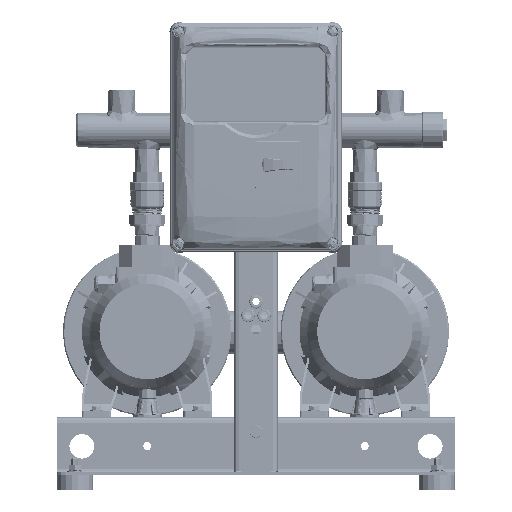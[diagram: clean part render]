
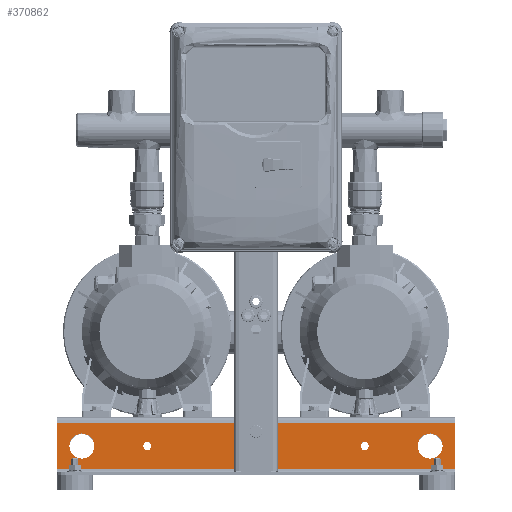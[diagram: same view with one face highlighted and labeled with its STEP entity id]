
A CAD part, top view. The second image highlights one B-rep face of the part: STEP entity #370862.
In plain terms, the highlighted planar face has unit normal (0, 0, 1) as drawn and (0, 0, -1) by its records, which use the part's own axes.
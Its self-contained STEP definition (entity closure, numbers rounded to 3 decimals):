
#364593=DIRECTION('',(1.,0.,0.));
#364594=VECTOR('',#364593,550.);
#364595=CARTESIAN_POINT('',(-275.,-8.,-150.));
#364596=LINE('',#364595,#364594);
#366823=DIRECTION('',(0.,1.,0.));
#366824=VECTOR('',#366823,64.);
#366825=CARTESIAN_POINT('',(-275.,-72.,-150.));
#366826=LINE('',#366825,#366824);
#366844=DIRECTION('',(1.,0.,0.));
#366845=VECTOR('',#366844,550.);
#366846=CARTESIAN_POINT('',(-275.,-72.,-150.));
#366847=LINE('',#366846,#366845);
#366874=DIRECTION('',(0.,1.,0.));
#366875=VECTOR('',#366874,26.);
#366876=CARTESIAN_POINT('',(-26.7,-40.,-150.));
#366877=LINE('',#366876,#366875);
#366881=DIRECTION('',(1.,0.,0.));
#366882=VECTOR('',#366881,3.6);
#366883=CARTESIAN_POINT('',(-30.3,-40.,-150.));
#366884=LINE('',#366883,#366882);
#366888=DIRECTION('',(0.,-1.,0.));
#366889=VECTOR('',#366888,26.);
#366890=CARTESIAN_POINT('',(-30.3,-14.,-150.));
#366891=LINE('',#366890,#366889);
#366895=DIRECTION('',(-1.,0.,0.));
#366896=VECTOR('',#366895,3.6);
#366897=CARTESIAN_POINT('',(-26.7,-14.,-150.));
#366898=LINE('',#366897,#366896);
#366902=DIRECTION('',(0.,1.,0.));
#366903=VECTOR('',#366902,26.);
#366904=CARTESIAN_POINT('',(30.3,-40.,-150.));
#366905=LINE('',#366904,#366903);
#366909=DIRECTION('',(1.,0.,0.));
#366910=VECTOR('',#366909,3.6);
#366911=CARTESIAN_POINT('',(26.7,-40.,-150.));
#366912=LINE('',#366911,#366910);
#366916=DIRECTION('',(0.,-1.,0.));
#366917=VECTOR('',#366916,26.);
#366918=CARTESIAN_POINT('',(26.7,-14.,-150.));
#366919=LINE('',#366918,#366917);
#366923=DIRECTION('',(-1.,0.,0.));
#366924=VECTOR('',#366923,3.6);
#366925=CARTESIAN_POINT('',(30.3,-14.,-150.));
#366926=LINE('',#366925,#366924);
#366930=CARTESIAN_POINT('',(0.,-20.,-150.));
#366931=DIRECTION('',(0.,0.,-1.));
#366932=DIRECTION('',(1.,0.,0.));
#366933=AXIS2_PLACEMENT_3D('',#366930,#366931,#366932);
#366938=CARTESIAN_POINT('',(0.,-20.,-150.));
#366939=DIRECTION('',(0.,0.,-1.));
#366940=DIRECTION('',(-1.,0.,0.));
#366941=AXIS2_PLACEMENT_3D('',#366938,#366939,#366940);
#366946=CARTESIAN_POINT('',(-240.,-40.,-150.));
#366947=DIRECTION('',(0.,0.,1.));
#366948=DIRECTION('',(-1.,0.,0.));
#366949=AXIS2_PLACEMENT_3D('',#366946,#366947,#366948);
#366954=CARTESIAN_POINT('',(-240.,-40.,-150.));
#366955=DIRECTION('',(0.,0.,1.));
#366956=DIRECTION('',(1.,0.,0.));
#366957=AXIS2_PLACEMENT_3D('',#366954,#366955,#366956);
#366962=CARTESIAN_POINT('',(240.,-40.,-150.));
#366963=DIRECTION('',(0.,0.,1.));
#366964=DIRECTION('',(-1.,0.,0.));
#366965=AXIS2_PLACEMENT_3D('',#366962,#366963,#366964);
#366970=CARTESIAN_POINT('',(240.,-40.,-150.));
#366971=DIRECTION('',(0.,0.,1.));
#366972=DIRECTION('',(1.,0.,0.));
#366973=AXIS2_PLACEMENT_3D('',#366970,#366971,#366972);
#366978=CARTESIAN_POINT('',(-150.,-40.,-150.));
#366979=DIRECTION('',(0.,0.,1.));
#366980=DIRECTION('',(1.,0.,0.));
#366981=AXIS2_PLACEMENT_3D('',#366978,#366979,#366980);
#366986=CARTESIAN_POINT('',(-150.,-40.,-150.));
#366987=DIRECTION('',(0.,0.,1.));
#366988=DIRECTION('',(-1.,0.,0.));
#366989=AXIS2_PLACEMENT_3D('',#366986,#366987,#366988);
#366994=CARTESIAN_POINT('',(150.,-40.,-150.));
#366995=DIRECTION('',(0.,0.,-1.));
#366996=DIRECTION('',(-1.,0.,0.));
#366997=AXIS2_PLACEMENT_3D('',#366994,#366995,#366996);
#367002=CARTESIAN_POINT('',(150.,-40.,-150.));
#367003=DIRECTION('',(0.,0.,-1.));
#367004=DIRECTION('',(1.,0.,0.));
#367005=AXIS2_PLACEMENT_3D('',#367002,#367003,#367004);
#367024=DIRECTION('',(0.,1.,0.));
#367025=VECTOR('',#367024,64.);
#367026=CARTESIAN_POINT('',(275.,-72.,-150.));
#367027=LINE('',#367026,#367025);
#368589=CARTESIAN_POINT('',(-275.,-72.,-150.));
#368590=CARTESIAN_POINT('',(-275.,-8.,-150.));
#368591=VERTEX_POINT('',#368589);
#368592=VERTEX_POINT('',#368590);
#368593=CARTESIAN_POINT('',(275.,-72.,-150.));
#368594=CARTESIAN_POINT('',(275.,-8.,-150.));
#368595=VERTEX_POINT('',#368593);
#368596=VERTEX_POINT('',#368594);
#368949=CARTESIAN_POINT('',(-26.7,-40.,-150.));
#368950=CARTESIAN_POINT('',(-26.7,-14.,-150.));
#368951=VERTEX_POINT('',#368949);
#368952=VERTEX_POINT('',#368950);
#368953=CARTESIAN_POINT('',(-30.3,-14.,-150.));
#368954=VERTEX_POINT('',#368953);
#368955=CARTESIAN_POINT('',(-30.3,-40.,-150.));
#368956=VERTEX_POINT('',#368955);
#368957=CARTESIAN_POINT('',(30.3,-40.,-150.));
#368958=CARTESIAN_POINT('',(30.3,-14.,-150.));
#368959=VERTEX_POINT('',#368957);
#368960=VERTEX_POINT('',#368958);
#368961=CARTESIAN_POINT('',(26.7,-14.,-150.));
#368962=VERTEX_POINT('',#368961);
#368963=CARTESIAN_POINT('',(26.7,-40.,-150.));
#368964=VERTEX_POINT('',#368963);
#368981=CARTESIAN_POINT('',(6.25,-20.,-150.));
#368982=CARTESIAN_POINT('',(-6.25,-20.,-150.));
#368983=VERTEX_POINT('',#368981);
#368984=VERTEX_POINT('',#368982);
#369005=CARTESIAN_POINT('',(-257.5,-40.,-150.));
#369006=CARTESIAN_POINT('',(-222.5,-40.,-150.));
#369007=VERTEX_POINT('',#369005);
#369008=VERTEX_POINT('',#369006);
#369009=CARTESIAN_POINT('',(222.5,-40.,-150.));
#369010=CARTESIAN_POINT('',(257.5,-40.,-150.));
#369011=VERTEX_POINT('',#369009);
#369012=VERTEX_POINT('',#369010);
#369105=CARTESIAN_POINT('',(-143.75,-40.,-150.));
#369106=CARTESIAN_POINT('',(-156.25,-40.,-150.));
#369107=VERTEX_POINT('',#369105);
#369108=VERTEX_POINT('',#369106);
#369117=CARTESIAN_POINT('',(143.75,-40.,-150.));
#369119=VERTEX_POINT('',#369117);
#369125=CARTESIAN_POINT('',(156.25,-40.,-150.));
#369127=VERTEX_POINT('',#369125);
#370800=CARTESIAN_POINT('',(-275.,-76.,-150.));
#370801=DIRECTION('',(0.,0.,-1.));
#370802=DIRECTION('',(0.,1.,0.));
#370803=AXIS2_PLACEMENT_3D('',#370800,#370801,#370802);
#370804=PLANE('',#370803);
#370805=ORIENTED_EDGE('',*,*,#370753,.F.);
#370806=ORIENTED_EDGE('',*,*,#370790,.T.);
#370808=ORIENTED_EDGE('',*,*,#370807,.T.);
#370809=ORIENTED_EDGE('',*,*,#369861,.F.);
#370810=EDGE_LOOP('',(#370805,#370806,#370808,#370809));
#370811=FACE_OUTER_BOUND('',#370810,.F.);
#370813=ORIENTED_EDGE('',*,*,#370812,.F.);
#370815=ORIENTED_EDGE('',*,*,#370814,.F.);
#370817=ORIENTED_EDGE('',*,*,#370816,.F.);
#370819=ORIENTED_EDGE('',*,*,#370818,.F.);
#370820=EDGE_LOOP('',(#370813,#370815,#370817,#370819));
#370821=FACE_BOUND('',#370820,.F.);
#370823=ORIENTED_EDGE('',*,*,#370822,.F.);
#370825=ORIENTED_EDGE('',*,*,#370824,.F.);
#370827=ORIENTED_EDGE('',*,*,#370826,.F.);
#370829=ORIENTED_EDGE('',*,*,#370828,.F.);
#370830=EDGE_LOOP('',(#370823,#370825,#370827,#370829));
#370831=FACE_BOUND('',#370830,.F.);
#370833=ORIENTED_EDGE('',*,*,#370832,.T.);
#370835=ORIENTED_EDGE('',*,*,#370834,.T.);
#370836=EDGE_LOOP('',(#370833,#370835));
#370837=FACE_BOUND('',#370836,.F.);
#370839=ORIENTED_EDGE('',*,*,#370838,.F.);
#370841=ORIENTED_EDGE('',*,*,#370840,.F.);
#370842=EDGE_LOOP('',(#370839,#370841));
#370843=FACE_BOUND('',#370842,.F.);
#370845=ORIENTED_EDGE('',*,*,#370844,.F.);
#370847=ORIENTED_EDGE('',*,*,#370846,.F.);
#370848=EDGE_LOOP('',(#370845,#370847));
#370849=FACE_BOUND('',#370848,.F.);
#370851=ORIENTED_EDGE('',*,*,#370850,.F.);
#370853=ORIENTED_EDGE('',*,*,#370852,.F.);
#370854=EDGE_LOOP('',(#370851,#370853));
#370855=FACE_BOUND('',#370854,.F.);
#370857=ORIENTED_EDGE('',*,*,#370856,.T.);
#370859=ORIENTED_EDGE('',*,*,#370858,.T.);
#370860=EDGE_LOOP('',(#370857,#370859));
#370861=FACE_BOUND('',#370860,.F.);
#366934=CIRCLE('',#366933,6.25);
#366942=CIRCLE('',#366941,6.25);
#366950=CIRCLE('',#366949,17.5);
#366958=CIRCLE('',#366957,17.5);
#366966=CIRCLE('',#366965,17.5);
#366974=CIRCLE('',#366973,17.5);
#366982=CIRCLE('',#366981,6.25);
#366990=CIRCLE('',#366989,6.25);
#366998=CIRCLE('',#366997,6.25);
#367006=CIRCLE('',#367005,6.25);
#369861=EDGE_CURVE('',#368592,#368596,#364596,.T.);
#370753=EDGE_CURVE('',#368591,#368592,#366826,.T.);
#370790=EDGE_CURVE('',#368591,#368595,#366847,.T.);
#370807=EDGE_CURVE('',#368595,#368596,#367027,.T.);
#370812=EDGE_CURVE('',#368951,#368952,#366877,.T.);
#370814=EDGE_CURVE('',#368956,#368951,#366884,.T.);
#370816=EDGE_CURVE('',#368954,#368956,#366891,.T.);
#370818=EDGE_CURVE('',#368952,#368954,#366898,.T.);
#370822=EDGE_CURVE('',#368959,#368960,#366905,.T.);
#370824=EDGE_CURVE('',#368964,#368959,#366912,.T.);
#370826=EDGE_CURVE('',#368962,#368964,#366919,.T.);
#370828=EDGE_CURVE('',#368960,#368962,#366926,.T.);
#370832=EDGE_CURVE('',#368983,#368984,#366934,.T.);
#370834=EDGE_CURVE('',#368984,#368983,#366942,.T.);
#370838=EDGE_CURVE('',#369007,#369008,#366950,.T.);
#370840=EDGE_CURVE('',#369008,#369007,#366958,.T.);
#370844=EDGE_CURVE('',#369011,#369012,#366966,.T.);
#370846=EDGE_CURVE('',#369012,#369011,#366974,.T.);
#370850=EDGE_CURVE('',#369107,#369108,#366982,.T.);
#370852=EDGE_CURVE('',#369108,#369107,#366990,.T.);
#370856=EDGE_CURVE('',#369119,#369127,#366998,.T.);
#370858=EDGE_CURVE('',#369127,#369119,#367006,.T.);
#370862=ADVANCED_FACE('',(#370811,#370821,#370831,#370837,#370843,#370849,
#370855,#370861),#370804,.T.);
